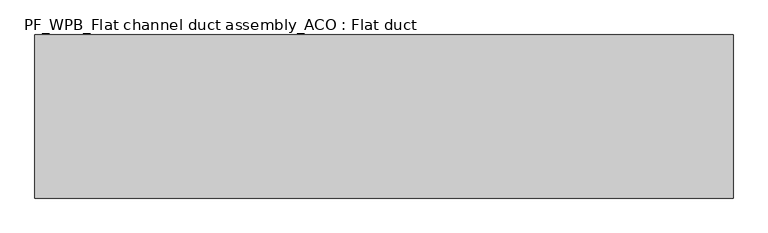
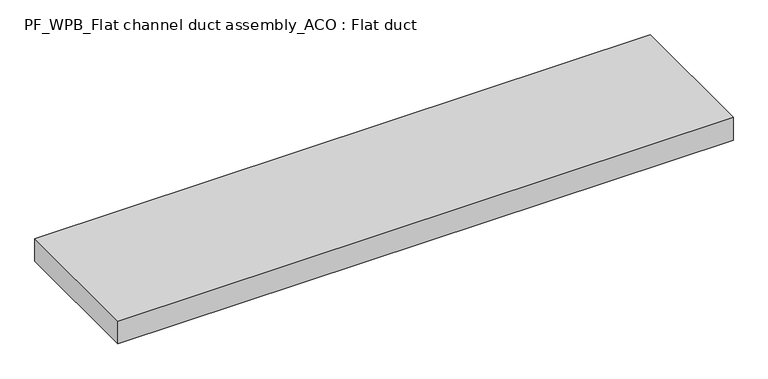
"""IFC4 building model written with IfcOpenShell, lengths in millimetres: sanitary terminal geometry, PF_WPB_Flat channel duct assembly_ACO : Flat duct."""

from ifc_helpers import new_model, si_unit, frame, origin, place, context, project, spatial, polyline, outline, extrude, source, transform, mapped, element, save


def pf_wpb_flat_channel_duct_assembly_aco_flat_duct_2d14214d(model_context):
    return source(origin(), model_context, "Body", "SweptSolid", [
        extrude(outline(polyline([(1070.0, 125.0), (1070.0, -125.0), (0.0, -125.0), (0.0, 125.0), (1070.0, 125.0)])), frame((0.0, 0.0, -42.0), z_axis=(0.0, 0.0, 1.0), x_axis=(1.0, 0.0, 0.0)), (0.0, 0.0, 1.0), 42.0),
    ])


if __name__ == "__main__":
    model = new_model("IFC4")
    model_context = context("Model", 3, world=origin())
    ifc_project = project(units=[si_unit("LENGTHUNIT", "METRE", prefix="MILLI")], contexts=[model_context])
    site = spatial("IfcSite", under=ifc_project)
    building = spatial("IfcBuilding", under=site)
    placement = place(None, origin())
    pf_wpb_flat_channel_duct_assembly_aco_flat_duct_shape = pf_wpb_flat_channel_duct_assembly_aco_flat_duct_2d14214d(model_context)
    element("IfcSanitaryTerminal", 1, ObjectType="PF_WPB_Flat channel duct assembly_ACO : Flat duct", at=placement, inside=building, context=model_context, shape_type="MappedRepresentation", body=[
        mapped(pf_wpb_flat_channel_duct_assembly_aco_flat_duct_shape, transform((0.0, 0.0, 0.0), x_axis=(1.0, 0.0, 0.0), y_axis=(0.0, 1.0, 0.0), z_axis=(0.0, 0.0, 1.0))),
    ])
    save(model, "model.ifc")
